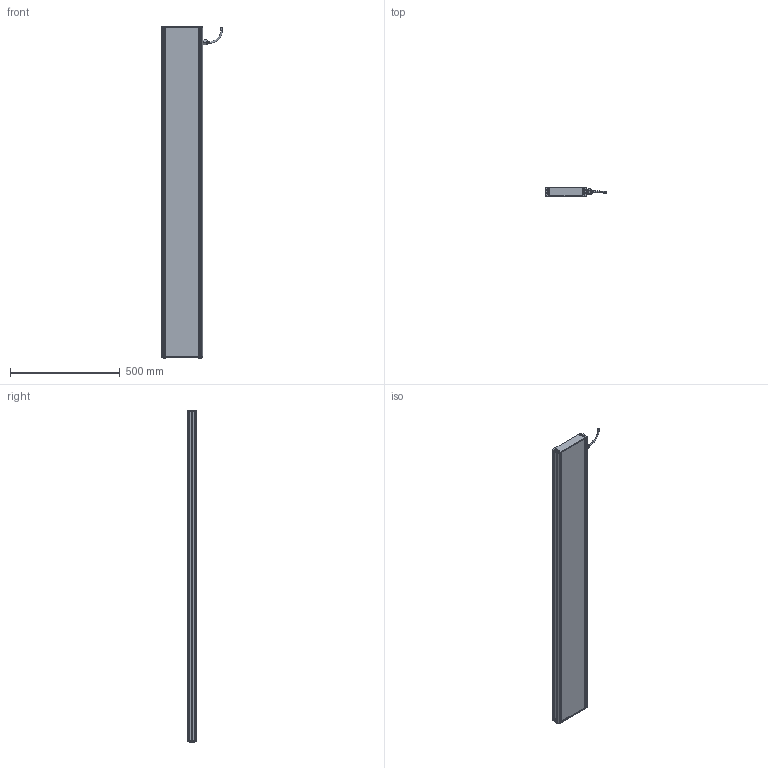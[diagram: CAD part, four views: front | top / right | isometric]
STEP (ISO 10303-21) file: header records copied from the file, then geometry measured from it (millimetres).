
FILE_DESCRIPTION (( 'STEP AP214' ), '1' );
FILE_NAME ('EFFI-BL-150-1500T-1M12P.STEP', '2021-07-02T09:51:53', ( '' ), ( '' ), 'SwSTEP 2.0', 'SolidWorks 2021', '' );
FILE_SCHEMA (( 'AUTOMOTIVE_DESIGN' ));
Length unit declared in the file: millimetre
Products named in the file (7): M12 power; EFFI-BL-150-1500T-1M12P; bord fin modif_lg 436.5 mm; profile modif_lg 99.5 mm; Pièce2^EFFI-BL-XXX-YYYT + M12P; 003776
Assembly tree (14 placements, depth 2):
  EFFI-BL-150-1500T-1M12P
    bord fin modif_lg 436.5 mm  x2
    profile modif_lg 99.5 mm
    Pièce2^EFFI-BL-XXX-YYYT + M12P
    profile modif_lg 99.5 mm
    M12 power
    003776  x8
Bounding box: 276.45 x 40 x 1510 mm (x, y, z)
Volume: 9652329.5 mm3; surface area: 1035474 mm2
Topology: 13 solids, 16 shells, 568 faces, 1441 edges, 923 vertices
Faces by surface type: plane 327, bspline 125, cylinder 94, cone 18, torus 4
Entity records: 15235 total; most frequent: CARTESIAN_POINT 5059, ORIENTED_EDGE 2014, DIRECTION 1715, EDGE_CURVE 1009, VECTOR 755, LINE 755, VERTEX_POINT 666, AXIS2_PLACEMENT_3D 480
